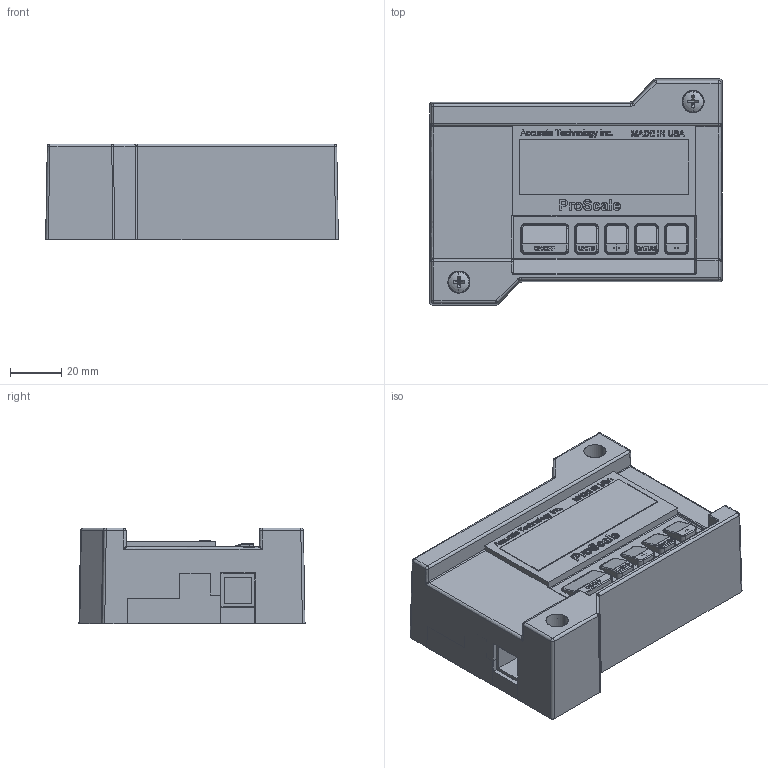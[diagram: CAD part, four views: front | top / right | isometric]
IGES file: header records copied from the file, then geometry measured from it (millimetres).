
Start section: SolidWorks IGES file using analytic representation for surfaces
Global section: file name: E:\Dropbox\Solidworks Files\Readouts\Flush mount displays\General\IGES\700-1600-230 BASIC Readout.IGS; native system: SolidWorks 2018; preprocessor: SolidWorks 2018; author: mike; date: 190129.150831; units: inch
Bounding box: 114.3 x 88.27 x 37.47 mm (x, y, z)
Surface area: 119727.7 mm2 (no closed solid volume)
Topology: 0 solids, 0 shells, 2859 faces, 29042 edges, 28989 vertices
Faces by surface type: bspline 2187, revolution 672
